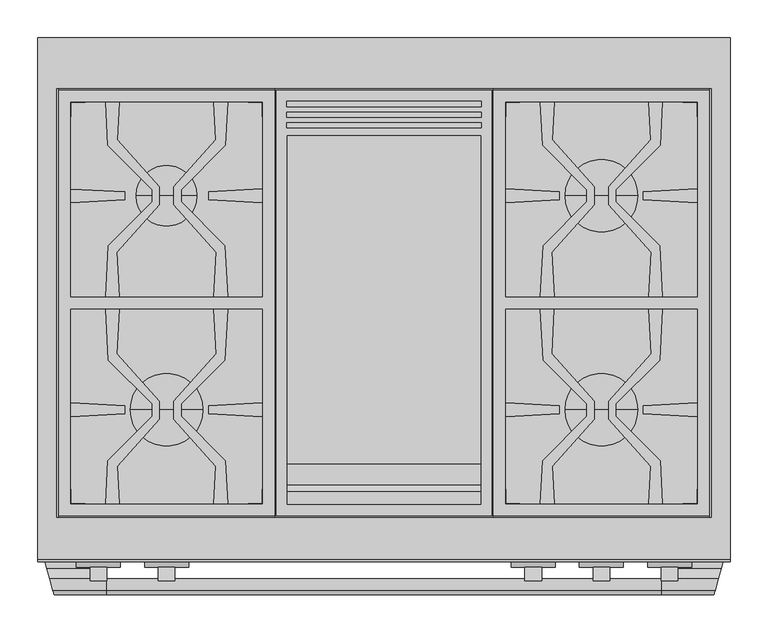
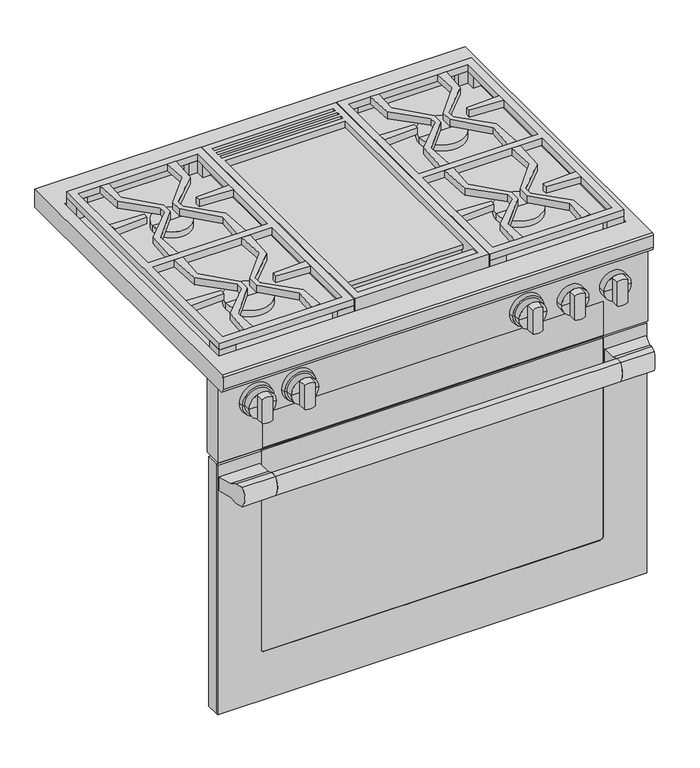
"""IFC4 building model written with IfcOpenShell, lengths in millimetres: proxy geometry, 10902410_USA_HR1936-2G_EDST-CLST : 25193671_USA_10902410_HR1936-2G_EDST-CLST."""

from ifc_helpers import new_model, si_unit, point, frame, frame_2d, origin, place, context, project, spatial, polyline, circle_curve, ellipse_curve, trimmed, segment, composite_curve, outline, extrude, faceted_brep, source, transform, mapped, element, save
from ifc_brep_helpers import plane_surface, cylinder_surface, revolved_surface, advanced_brep


def specialty_equipment_e9b42d80(model_context):
    return source(origin(), model_context, "Body", "SolidModel", [
        extrude(outline(composite_curve([segment(polyline([(-729.0, 667.0), (-714.0, 667.0), (-714.0, 624.0), (-729.0, 624.0)]), True, "CONTINUOUS"), segment(trimmed(circle_curve(frame_2d((-693.4791667, 645.5)), 41.5208333), [point((-729.0, 624.0))], [point((-729.0, 667.0))], False, "CARTESIAN"), True, "CONTINUOUS")], self_intersect=False)), frame((-366.0, 0.0, 0.0), z_axis=(1.0, 0.0, 0.0), x_axis=(0.0, 1.0, 0.0)), (0.0, 0.0, 1.0), 732.0),
        extrude(outline(polyline([(-456.0, -638.0), (456.0, -638.0), (456.0, -664.7), (-456.0, -664.7), (-456.0, -638.0)])), frame((0.0, 0.0, 127.0), z_axis=(0.0, 0.0, 1.0), x_axis=(1.0, 0.0, 0.0)), (0.0, 0.0, 1.0), 561.0),
        extrude(outline(polyline([(-455.0, -664.7), (455.0, -664.7), (455.0, -668.7), (-455.0, -668.7), (-455.0, -664.7)])), frame((0.0, 0.0, 128.0), z_axis=(0.0, 0.0, 1.0), x_axis=(1.0, 0.0, 0.0)), (0.0, 0.0, 1.0), 559.0),
        advanced_brep(
        [(363.0, -664.7, 688.0), (456.0, -664.7, 688.0), (456.0, -664.7, 127.0), (-456.0, -664.7, 127.0), (-456.0, -664.7, 688.0), (-363.0, -664.7, 688.0), (-363.0, -664.7, 687.0), (-455.0, -664.7, 687.0), (-455.0, -664.7, 128.0), (455.0, -664.7, 128.0), (455.0, -664.7, 687.0), (363.0, -664.7, 687.0), (-363.0, -670.0, 688.0), (-456.0, -670.0, 688.0), (-456.0, -670.0, 127.0), (456.0, -670.0, 127.0), (456.0, -670.0, 688.0), (363.0, -670.0, 688.0), (363.0, -670.0, 241.0), (357.0, -670.0, 235.0), (-357.0, -670.0, 235.0), (-363.0, -670.0, 241.0), (-363.0, -668.7, 241.0), (-363.0, -668.7, 687.0), (357.0, -668.7, 235.0), (-357.0, -668.7, 235.0), (363.0, -668.7, 687.0), (363.0, -668.7, 241.0), (455.0, -668.7, 687.0), (455.0, -668.7, 128.0), (-455.0, -668.7, 128.0), (-455.0, -668.7, 687.0)],
        [
            (0, 1),
            (1, 2),
            (2, 3),
            (3, 4),
            (4, 5),
            (5, 6),
            (6, 7),
            (7, 8),
            (8, 9),
            (9, 10),
            (10, 11),
            (11, 0),
            (12, 13),
            (13, 14),
            (14, 15),
            (15, 16),
            (16, 17),
            (17, 18),
            (18, 19, circle_curve(frame((357.0, -670.0, 241.0), z_axis=(0.0, 1.0, 0.0), x_axis=(-1.0, 0.0, 0.0)), 6.0)),
            (19, 20),
            (20, 21, circle_curve(frame((-357.0, -670.0, 241.0), z_axis=(0.0, 1.0, 0.0), x_axis=(-1.0, 0.0, 0.0)), 6.0)),
            (21, 12),
            (21, 22),
            (22, 23),
            (23, 6),
            (5, 12),
            (19, 24),
            (24, 25),
            (25, 20),
            (17, 0),
            (11, 26),
            (26, 27),
            (27, 18),
            (16, 1),
            (15, 2),
            (14, 3),
            (13, 4),
            (25, 22, circle_curve(frame((-357.0, -668.7, 241.0), z_axis=(0.0, 1.0, 0.0), x_axis=(-1.0, 0.0, 0.0)), 6.0)),
            (27, 24, circle_curve(frame((357.0, -668.7, 241.0), z_axis=(0.0, 1.0, 0.0), x_axis=(-1.0, 0.0, 0.0)), 6.0)),
            (28, 29),
            (29, 30),
            (30, 31),
            (31, 23),
            (26, 28),
            (28, 10),
            (9, 29),
            (8, 30),
            (7, 31),
        ],
        [
            plane_surface(frame((-363.0, -664.7, 241.0), z_axis=(0.0, 1.0, 0.0), x_axis=(0.0, 0.0, -1.0))),
            plane_surface(frame((-363.0, -670.0, 241.0), z_axis=(0.0, -1.0, 0.0), x_axis=(0.0, 0.0, 1.0))),
            plane_surface(frame((-363.0, -664.7, 688.0), z_axis=(1.0, 0.0, 0.0), x_axis=(0.0, -1.0, 0.0))),
            plane_surface(frame((-357.0, -664.7, 235.0), z_axis=(0.0, 0.0, 1.0), x_axis=(0.0, -1.0, 0.0))),
            plane_surface(frame((363.0, -664.7, 241.0), z_axis=(-1.0, 0.0, 0.0), x_axis=(0.0, -1.0, 0.0))),
            plane_surface(frame((363.0, -664.7, 688.0), z_axis=(0.0, 0.0, 1.0), x_axis=(0.0, -1.0, 0.0))),
            plane_surface(frame((456.0, -664.7, 688.0), z_axis=(1.0, 0.0, 0.0), x_axis=(0.0, -1.0, 0.0))),
            plane_surface(frame((456.0, -664.7, 127.0), z_axis=(0.0, 0.0, -1.0), x_axis=(0.0, -1.0, 0.0))),
            plane_surface(frame((-456.0, -664.7, 127.0), z_axis=(-1.0, 0.0, 0.0), x_axis=(0.0, -1.0, 0.0))),
            plane_surface(frame((-456.0, -664.7, 688.0), z_axis=(0.0, 0.0, 1.0), x_axis=(0.0, -1.0, 0.0))),
            revolved_surface(polyline([(-363.0, -670.0, 241.0), (-363.0, -668.7, 241.0)]), (-357.0, -670.0, 241.0), (0.0, -1.0, 0.0)),
            revolved_surface(polyline([(351.0, -670.0, 241.0), (351.0, -668.7, 241.0)]), (357.0, -670.0, 241.0), (0.0, -1.0, 0.0)),
            plane_surface(frame((455.0, -668.7, 687.0), z_axis=(0.0, 1.0, 0.0), x_axis=(0.0, 0.0, 1.0))),
            plane_surface(frame((455.0, -664.7, 687.0), z_axis=(-1.0, 0.0, 0.0), x_axis=(0.0, -1.0, 0.0))),
            plane_surface(frame((455.0, -664.7, 128.0), z_axis=(0.0, 0.0, 1.0), x_axis=(0.0, -1.0, 0.0))),
            plane_surface(frame((-455.0, -664.7, 128.0), z_axis=(1.0, 0.0, 0.0), x_axis=(0.0, -1.0, 0.0))),
            plane_surface(frame((-455.0, -664.7, 687.0), z_axis=(0.0, 0.0, -1.0), x_axis=(0.0, -1.0, 0.0))),
        ],
        [
            (0, [[1, 2, 3, 4, 5, 6, 7, 8, 9, 10, 11, 12]]),
            (1, [[13, 14, 15, 16, 17, 18, 19, 20, 21, 22]]),
            (2, [[-22, 23, 24, 25, -6, 26]]),
            (3, [[-20, 27, 28, 29]]),
            (4, [[-18, 30, -12, 31, 32, 33]]),
            (5, [[-1, -30, -17, 34]]),
            (6, [[-2, -34, -16, 35]]),
            (7, [[-3, -35, -15, 36]]),
            (8, [[-4, -36, -14, 37]]),
            (9, [[-5, -37, -13, -26]]),
            (10, [[-21, -29, 38, -23]]),
            (11, [[-19, -33, 39, -27]]),
            (12, [[40, 41, 42, 43, -24, -38, -28, -39, -32, 44]]),
            (13, [[-40, 45, -10, 46]]),
            (14, [[-41, -46, -9, 47]]),
            (15, [[-42, -47, -8, 48]]),
            (16, [[-45, -44, -31, -11]]),
            (16, [[-48, -7, -25, -43]]),
        ],
    ),
        extrude(outline(polyline([(-427.0, -617.0), (427.0, -617.0), (427.0, -638.0), (-427.0, -638.0), (-427.0, -617.0)])), frame((0.0, 0.0, 133.0), z_axis=(0.0, 0.0, 1.0), x_axis=(1.0, 0.0, 0.0)), (0.0, 0.0, 1.0), 550.0),
        advanced_brep(
        [(-366.0, -700.0, 630.0), (-366.0, -670.0, 630.0), (-366.0, -670.0, 661.0), (-366.0, -700.0, 661.0), (-366.0, -714.0, 667.0), (-366.0, -729.0, 667.0), (-366.0, -729.0, 624.0), (-366.0, -714.0, 624.0), (-444.9615242, -700.0, 630.0), (-453.0, -670.0, 630.0), (-453.0, -670.0, 661.0), (-444.9615242, -700.0, 661.0), (-441.2102355, -714.0, 667.0), (-437.1909976, -729.0, 667.0), (-437.1909976, -729.0, 624.0), (-441.2102355, -714.0, 624.0)],
        [
            (0, 1),
            (1, 2),
            (2, 3),
            (3, 4),
            (4, 5),
            (5, 6, circle_curve(frame((-366.0, -693.4791667, 645.5), z_axis=(1.0, 0.0, 0.0), x_axis=(0.0, 0.0, 1.0)), 41.5208333)),
            (6, 7),
            (7, 0),
            (0, 8),
            (8, 9),
            (9, 1),
            (9, 10),
            (10, 2),
            (10, 11),
            (11, 3),
            (4, 12),
            (12, 13),
            (13, 5),
            (13, 14, ellipse_curve(frame((-446.7087763, -693.4791667, 645.5), z_axis=(0.9659258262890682, 0.25881904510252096, 0.0), x_axis=(0.2588190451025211, -0.9659258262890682, 0.0)), 42.9855297, 41.5208333)),
            (14, 6),
            (14, 15),
            (15, 7),
            (8, 15),
            (12, 11),
        ],
        [
            plane_surface(frame((-366.0, -670.0, 630.0), z_axis=(1.0, 0.0, 0.0), x_axis=(0.0, 1.0, 0.0))),
            plane_surface(frame((-366.0, -700.0, 630.0), z_axis=(0.0, 0.0, -1.0), x_axis=(-1.0, 0.0, 0.0))),
            plane_surface(frame((-366.0, -670.0, 630.0), z_axis=(0.0, 1.0, 0.0), x_axis=(-1.0, 0.0, 0.0))),
            plane_surface(frame((-366.0, -670.0, 661.0), z_axis=(0.0, 0.0, 1.0), x_axis=(-1.0, 0.0, 0.0))),
            plane_surface(frame((-366.0, -714.0, 667.0), z_axis=(0.0, 0.0, 1.0), x_axis=(-1.0, 0.0, 0.0))),
            cylinder_surface(frame((-453.0, -693.4791667, 645.5), z_axis=(1.0, 0.0, 0.0), x_axis=(0.0, 0.0, 1.0)), 41.5208333),
            plane_surface(frame((-366.0, -729.0, 624.0), z_axis=(0.0, 0.0, -1.0), x_axis=(-1.0, 0.0, 0.0))),
            plane_surface(frame((-430.5578883, -753.7551012, 668.5), z_axis=(-0.9659258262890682, -0.25881904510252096, 0.0), x_axis=(0.0, 0.0, -1.0))),
            plane_surface(frame((-366.0, -700.0, 661.0), z_axis=(0.0, 0.39391929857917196, 0.919145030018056), x_axis=(-1.0, 0.0, 0.0))),
            plane_surface(frame((-366.0, -714.0, 624.0), z_axis=(0.0, 0.39391929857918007, -0.9191450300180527), x_axis=(-1.0, 0.0, 0.0))),
        ],
        [
            (0, [[1, 2, 3, 4, 5, 6, 7, 8]]),
            (1, [[-1, 9, 10, 11]]),
            (2, [[-2, -11, 12, 13]]),
            (3, [[-3, -13, 14, 15]]),
            (4, [[-5, 16, 17, 18]]),
            (5, [[-6, -18, 19, 20]]),
            (6, [[-7, -20, 21, 22]]),
            (7, [[-10, 23, -21, -19, -17, 24, -14, -12]]),
            (8, [[-4, -15, -24, -16]]),
            (9, [[-8, -22, -23, -9]]),
        ],
    ),
        advanced_brep(
        [(366.0, -700.0, 661.0), (366.0, -670.0, 661.0), (366.0, -670.0, 630.0), (366.0, -700.0, 630.0), (366.0, -714.0, 624.0), (366.0, -729.0, 624.0), (366.0, -729.0, 667.0), (366.0, -714.0, 667.0), (437.1909976, -729.0, 667.0), (441.2102355, -714.0, 667.0), (437.1909976, -729.0, 624.0), (441.2102355, -714.0, 624.0), (453.0, -670.0, 630.0), (444.9615242, -700.0, 630.0), (453.0, -670.0, 661.0), (444.9615242, -700.0, 661.0)],
        [
            (0, 1),
            (1, 2),
            (2, 3),
            (3, 4),
            (4, 5),
            (5, 6, circle_curve(frame((366.0, -693.4791667, 645.5), z_axis=(-1.0, 0.0, 0.0), x_axis=(0.0, 0.0, 1.0)), 41.5208333)),
            (6, 7),
            (7, 0),
            (6, 8),
            (8, 9),
            (9, 7),
            (5, 10),
            (10, 8, ellipse_curve(frame((446.7087763, -693.4791667, 645.5), z_axis=(-0.9659258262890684, 0.2588190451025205, 0.0), x_axis=(0.25881904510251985, 0.9659258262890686, 0.0)), 42.9855297, 41.5208333)),
            (4, 11),
            (11, 10),
            (2, 12),
            (12, 13),
            (13, 3),
            (1, 14),
            (14, 12),
            (0, 15),
            (15, 14),
            (11, 13),
            (15, 9),
        ],
        [
            plane_surface(frame((366.0, -714.0, 667.0), z_axis=(-1.0000000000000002, 0.0, 0.0), x_axis=(0.0, 0.9191450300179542, -0.3939192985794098))),
            plane_surface(frame((453.0, -714.0, 667.0), z_axis=(0.0, 0.0, 1.0), x_axis=(-1.0, 0.0, 0.0))),
            cylinder_surface(frame((366.0, -693.4791667, 645.5), z_axis=(1.0, 0.0, 0.0), x_axis=(0.0, 0.0, 1.0)), 41.5208333),
            plane_surface(frame((453.0, -729.0, 624.0), z_axis=(0.0, 0.0, -1.0), x_axis=(-1.0, 0.0, 0.0))),
            plane_surface(frame((453.0, -700.0, 630.0), z_axis=(0.0, 0.0, -1.0), x_axis=(-1.0, 0.0, 0.0))),
            plane_surface(frame((453.0, -670.0, 630.0), z_axis=(0.0, 1.0, 0.0), x_axis=(-1.0, 0.0, 0.0))),
            plane_surface(frame((453.0, -670.0, 661.0), z_axis=(0.0, 0.0, 1.0), x_axis=(-1.0, 0.0, 0.0))),
            plane_surface(frame((453.0, -670.0, 668.5), z_axis=(0.9659258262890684, -0.2588190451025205, 0.0), x_axis=(0.0, 0.0, -1.0))),
            plane_surface(frame((453.0, -700.0, 661.0), z_axis=(0.0, 0.3939192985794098, 0.9191450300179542), x_axis=(-1.0, 0.0, 0.0))),
            plane_surface(frame((453.0, -714.0, 624.0), z_axis=(0.0, 0.3939192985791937, -0.9191450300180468), x_axis=(-1.0, 0.0, 0.0))),
        ],
        [
            (0, [[1, 2, 3, 4, 5, 6, 7, 8]]),
            (1, [[-7, 9, 10, 11]]),
            (2, [[-6, 12, 13, -9]]),
            (3, [[-5, 14, 15, -12]]),
            (4, [[-3, 16, 17, 18]]),
            (5, [[-2, 19, 20, -16]]),
            (6, [[-1, 21, 22, -19]]),
            (7, [[-10, -13, -15, 23, -17, -20, -22, 24]]),
            (8, [[-8, -11, -24, -21]]),
            (9, [[-4, -18, -23, -14]]),
        ],
    ),
        extrude(outline(polyline([(206.4177304, -358.0273828), (224.4174107, -358.0273828), (221.3474419, -416.9894265), (277.4590566, -479.568392), (277.4590566, -503.4471434), (221.8930533, -565.5024535), (224.5051055, -615.0212482), (206.5054252, -615.0212482), (209.4706458, -558.0710081), (267.8494553, -499.6921986), (267.8494553, -483.3657133), (209.9764383, -425.4926963), (206.4177304, -358.0273828)])), frame((0.0, 0.0, 914.0), z_axis=(0.0, 0.0, 1.0), x_axis=(1.0, 0.0, 0.0)), (0.0, 0.0, 1.0), 15.0),
        extrude(outline(polyline([(352.5666917, -416.9448139), (349.4588735, -358.0273828), (367.4534566, -358.0273828), (363.9434746, -425.4403498), (306.0712231, -483.3126013), (306.0712231, -499.6295194), (364.5438392, -558.1021355), (367.5462487, -615.0212482), (349.541471, -615.0212482), (352.1220648, -565.4581775), (296.4590702, -503.3795395), (296.4590702, -479.6049953), (352.5666917, -416.9448139)])), frame((0.0, 0.0, 914.0), z_axis=(0.0, 0.0, 1.0), x_axis=(1.0, 0.0, 0.0)), (0.0, 0.0, 1.0), 15.0),
        extrude(outline(polyline([(-367.5822696, -358.0273828), (-349.5825893, -358.0273828), (-352.6525581, -416.9894265), (-296.5409434, -479.568392), (-296.5409434, -503.4471434), (-352.1069467, -565.5024535), (-349.4948945, -615.0212482), (-367.4945748, -615.0212482), (-364.5293542, -558.0710081), (-306.1505447, -499.6921986), (-306.1505447, -483.3657133), (-364.0235617, -425.4926963), (-367.5822696, -358.0273828)])), frame((0.0, 0.0, 914.0), z_axis=(0.0, 0.0, 1.0), x_axis=(1.0, 0.0, 0.0)), (0.0, 0.0, 1.0), 15.0),
        extrude(outline(polyline([(-224.5411265, -358.0273828), (-206.5465434, -358.0273828), (-210.0565254, -425.4403498), (-267.9287769, -483.3126013), (-267.9287769, -499.6295194), (-209.4561608, -558.1021355), (-206.4537513, -615.0212482), (-224.458529, -615.0212482), (-221.8779352, -565.4581775), (-277.5409298, -503.3795395), (-277.5409298, -479.6049953), (-221.4333083, -416.9448139), (-224.5411265, -358.0273828)])), frame((0.0, 0.0, 914.0), z_axis=(0.0, 0.0, 1.0), x_axis=(1.0, 0.0, 0.0)), (0.0, 0.0, 1.0), 15.0),
        extrude(outline(polyline([(206.4614138, -85.0), (224.4614138, -85.0), (221.8661974, -134.5196799), (277.5, -196.6082182), (277.5, -220.3917818), (221.3710782, -283.0328838), (224.4614138, -342.0), (206.4614138, -342.0), (209.9971843, -274.5334805), (267.8891082, -216.6415566), (267.8891082, -200.3584434), (209.4441217, -141.9134569), (206.4614138, -85.0)])), frame((0.0, 0.0, 914.0), z_axis=(0.0, 0.0, 1.0), x_axis=(1.0, 0.0, 0.0)), (0.0, 0.0, 1.0), 15.0),
        extrude(outline(polyline([(349.5, -85.0), (367.5, -85.0), (364.5172921, -141.9134569), (306.1108918, -200.3198573), (306.1108918, -216.6801428), (363.9642295, -274.5334805), (367.5, -342.0), (349.5, -342.0), (352.5903356, -283.0328839), (296.5, -220.4348449), (296.5, -196.5651551), (352.0952165, -134.5196799), (349.5, -85.0)])), frame((0.0, 0.0, 914.0), z_axis=(0.0, 0.0, 1.0), x_axis=(1.0, 0.0, 0.0)), (0.0, 0.0, 1.0), 15.0),
        extrude(outline(polyline([(-367.5385862, -85.0), (-349.5385862, -85.0), (-352.1338026, -134.5196799), (-296.5, -196.6082182), (-296.5, -220.3917818), (-352.6289218, -283.0328838), (-349.5385862, -342.0), (-367.5385862, -342.0), (-364.0028157, -274.5334805), (-306.1108918, -216.6415566), (-306.1108918, -200.3584434), (-364.5558783, -141.9134569), (-367.5385862, -85.0)])), frame((0.0, 0.0, 914.0), z_axis=(0.0, 0.0, 1.0), x_axis=(1.0, 0.0, 0.0)), (0.0, 0.0, 1.0), 15.0),
        extrude(outline(polyline([(-224.5, -85.0), (-206.5, -85.0), (-209.4827079, -141.9134569), (-267.8891082, -200.3198573), (-267.8891082, -216.6801428), (-210.0357705, -274.5334805), (-206.5, -342.0), (-224.5, -342.0), (-221.4096644, -283.0328839), (-277.5, -220.4348449), (-277.5, -196.5651551), (-221.9047835, -134.5196799), (-224.5, -85.0)])), frame((0.0, 0.0, 914.0), z_axis=(0.0, 0.0, 1.0), x_axis=(1.0, 0.0, 0.0)), (0.0, 0.0, 1.0), 15.0),
        extrude(outline(polyline([(429.5, -67.0), (429.5, -633.0), (144.5, -633.0), (144.5, -67.0), (429.5, -67.0)])), frame((0.0, 0.0, 870.0), z_axis=(0.0, 0.0, 1.0), x_axis=(1.0, 0.0, 0.0)), (0.0, 0.0, 1.0), 17.0),
        extrude(outline(polyline([(-144.5, -67.0), (-144.5, -633.0), (-429.5, -633.0), (-429.5, -67.0), (-144.5, -67.0)])), frame((0.0, 0.0, 870.0), z_axis=(0.0, 0.0, 1.0), x_axis=(1.0, 0.0, 0.0)), (0.0, 0.0, 1.0), 17.0),
        extrude(outline(polyline([(-342.5, -213.7921261), (-413.5, -217.4578849), (-413.5, -199.5421151), (-342.5, -203.2078739), (-342.5, -213.7921261)])), frame((0.0, 0.0, 914.0), z_axis=(0.0, 0.0, 1.0), x_axis=(1.0, 0.0, 0.0)), (0.0, 0.0, 1.0), 15.0),
        extrude(outline(polyline([(-160.5, -199.5029948), (-160.5, -217.4970052), (-231.5, -213.7790477), (-231.5, -203.2209523), (-160.5, -199.5029948)])), frame((0.0, 0.0, 914.0), z_axis=(0.0, 0.0, 1.0), x_axis=(1.0, 0.0, 0.0)), (0.0, 0.0, 1.0), 15.0),
        extrude(outline(polyline([(-342.5, -496.2921261), (-413.5, -499.9578849), (-413.5, -482.0421151), (-342.5, -485.7078739), (-342.5, -496.2921261)])), frame((0.0, 0.0, 914.0), z_axis=(0.0, 0.0, 1.0), x_axis=(1.0, 0.0, 0.0)), (0.0, 0.0, 1.0), 15.0),
        extrude(outline(polyline([(-160.5, -482.0029948), (-160.5, -499.9970052), (-231.5, -496.2790477), (-231.5, -485.7209523), (-160.5, -482.0029948)])), frame((0.0, 0.0, 914.0), z_axis=(0.0, 0.0, 1.0), x_axis=(1.0, 0.0, 0.0)), (0.0, 0.0, 1.0), 15.0),
        extrude(outline(polyline([(-144.5, -631.0), (-179.5, -631.0), (-179.5, -615.0), (-160.5, -615.0), (-160.5, -596.0), (-144.5, -596.0), (-144.5, -631.0)])), frame((0.0, 0.0, 887.0), z_axis=(0.0, 0.0, 1.0), x_axis=(1.0, 0.0, 0.0)), (0.0, 0.0, 1.0), 27.0),
        extrude(outline(polyline([(-429.5, -631.0), (-429.5, -596.0), (-413.5, -596.0), (-413.5, -615.0), (-394.5, -615.0), (-394.5, -631.0), (-429.5, -631.0)])), frame((0.0, 0.0, 887.0), z_axis=(0.0, 0.0, 1.0), x_axis=(1.0, 0.0, 0.0)), (0.0, 0.0, 1.0), 27.0),
        extrude(outline(polyline([(-144.5, -69.0), (-144.5, -104.0), (-160.5, -104.0), (-160.5, -85.0), (-179.5, -85.0), (-179.5, -69.0), (-144.5, -69.0)])), frame((0.0, 0.0, 887.0), z_axis=(0.0, 0.0, 1.0), x_axis=(1.0, 0.0, 0.0)), (0.0, 0.0, 1.0), 27.0),
        extrude(outline(polyline([(-429.5, -69.0), (-394.5, -69.0), (-394.5, -85.0), (-413.5, -85.0), (-413.5, -104.0), (-429.5, -104.0), (-429.5, -69.0)])), frame((0.0, 0.0, 887.0), z_axis=(0.0, 0.0, 1.0), x_axis=(1.0, 0.0, 0.0)), (0.0, 0.0, 1.0), 27.0),
        extrude(outline(polyline([(160.5, -499.9810574), (160.5, -482.0189426), (231.5, -485.7078739), (231.5, -496.2921261), (160.5, -499.9810574)])), frame((0.0, 0.0, 914.0), z_axis=(0.0, 0.0, 1.0), x_axis=(1.0, 0.0, 0.0)), (0.0, 0.0, 1.0), 15.0),
        extrude(outline(polyline([(413.5, -482.0262039), (413.5, -499.9737961), (342.5, -496.2790477), (342.5, -485.7209523), (413.5, -482.0262039)])), frame((0.0, 0.0, 914.0), z_axis=(0.0, 0.0, 1.0), x_axis=(1.0, 0.0, 0.0)), (0.0, 0.0, 1.0), 15.0),
        extrude(outline(polyline([(160.5, -217.4810574), (160.5, -199.5189426), (231.5, -203.2078739), (231.5, -213.7921261), (160.5, -217.4810574)])), frame((0.0, 0.0, 914.0), z_axis=(0.0, 0.0, 1.0), x_axis=(1.0, 0.0, 0.0)), (0.0, 0.0, 1.0), 15.0),
        extrude(outline(polyline([(413.5, -199.5262039), (413.5, -217.4737961), (342.5, -213.7790477), (342.5, -203.2209523), (413.5, -199.5262039)])), frame((0.0, 0.0, 914.0), z_axis=(0.0, 0.0, 1.0), x_axis=(1.0, 0.0, 0.0)), (0.0, 0.0, 1.0), 15.0),
        advanced_brep(
        [(239.0, -208.5, 887.0), (335.0, -208.5, 887.0), (335.0, -208.5, 901.0), (239.0, -208.5, 901.0), (287.0, -208.5, 887.0), (287.0, -208.5, 901.0)],
        [
            (0, 1, circle_curve(frame((287.0, -208.5, 887.0), z_axis=(0.0, 0.0, 1.0), x_axis=(1.0, 0.0, 0.0)), 48.0)),
            (1, 2),
            (2, 3, circle_curve(frame((287.0, -208.5, 901.0), z_axis=(0.0, 0.0, -1.0), x_axis=(1.0, 0.0, 0.0)), 48.0)),
            (3, 0),
            (1, 0, circle_curve(frame((287.0, -208.5, 887.0), z_axis=(0.0, 0.0, 1.0), x_axis=(1.0, 0.0, 0.0)), 48.0)),
            (3, 2, circle_curve(frame((287.0, -208.5, 901.0), z_axis=(0.0, 0.0, -1.0), x_axis=(1.0, 0.0, 0.0)), 48.0)),
            (4, 1),
            (0, 4),
            (2, 5),
            (5, 3),
        ],
        [
            cylinder_surface(frame((287.0, -208.5, 2424.4), z_axis=(0.0, 0.0, -1.0), x_axis=(1.0, 0.0, 0.0)), 48.0),
            plane_surface(frame((287.0, -208.5, 887.0), z_axis=(0.0, 0.0, -1.0), x_axis=(1.0, 0.0, 0.0))),
            plane_surface(frame((287.0, -208.5, 901.0), z_axis=(0.0, 0.0, 1.0), x_axis=(1.0, 0.0, 0.0))),
        ],
        [
            (0, [[1, 2, 3, 4]]),
            (0, [[5, -4, 6, -2]]),
            (1, [[7, -1, 8]]),
            (1, [[-8, -5, -7]]),
            (2, [[-3, 9, 10]]),
            (2, [[-6, -10, -9]]),
        ],
    ),
        extrude(outline(polyline([(-144.5, -69.0), (-144.5, -631.0), (-429.5, -631.0), (-429.5, -69.0), (-144.5, -69.0)]), holes=[polyline([(-160.5, -85.0), (-413.5, -85.0), (-413.5, -342.0), (-160.5, -342.0), (-160.5, -85.0)]), polyline([(-413.5, -358.0), (-413.5, -615.0), (-160.5, -615.0), (-160.5, -358.0), (-413.5, -358.0)])]), frame((0.0, 0.0, 914.0), z_axis=(0.0, 0.0, 1.0), x_axis=(1.0, 0.0, 0.0)), (0.0, 0.0, 1.0), 15.0),
        extrude(outline(polyline([(429.5, -69.0), (429.5, -631.0), (144.5, -631.0), (144.5, -69.0), (429.5, -69.0)]), holes=[polyline([(413.5, -85.0), (160.5, -85.0), (160.5, -342.0), (413.5, -342.0), (413.5, -85.0)]), polyline([(160.5, -358.0), (160.5, -615.0), (413.5, -615.0), (413.5, -358.0), (160.5, -358.0)])]), frame((0.0, 0.0, 914.0), z_axis=(0.0, 0.0, 1.0), x_axis=(1.0, 0.0, 0.0)), (0.0, 0.0, 1.0), 15.0),
        advanced_brep(
        [(239.0, -491.0, 887.0), (335.0, -491.0, 887.0), (335.0, -491.0, 901.0), (239.0, -491.0, 901.0), (287.0, -491.0, 887.0), (287.0, -491.0, 901.0)],
        [
            (0, 1, circle_curve(frame((287.0, -491.0, 887.0), z_axis=(0.0, 0.0, 1.0), x_axis=(1.0, 0.0, 0.0)), 48.0)),
            (1, 2),
            (2, 3, circle_curve(frame((287.0, -491.0, 901.0), z_axis=(0.0, 0.0, -1.0), x_axis=(1.0, 0.0, 0.0)), 48.0)),
            (3, 0),
            (1, 0, circle_curve(frame((287.0, -491.0, 887.0), z_axis=(0.0, 0.0, 1.0), x_axis=(1.0, 0.0, 0.0)), 48.0)),
            (3, 2, circle_curve(frame((287.0, -491.0, 901.0), z_axis=(0.0, 0.0, -1.0), x_axis=(1.0, 0.0, 0.0)), 48.0)),
            (4, 1),
            (0, 4),
            (2, 5),
            (5, 3),
        ],
        [
            cylinder_surface(frame((287.0, -491.0, 2424.4), z_axis=(0.0, 0.0, -1.0), x_axis=(1.0, 0.0, 0.0)), 48.0),
            plane_surface(frame((287.0, -491.0, 887.0), z_axis=(0.0, 0.0, -1.0), x_axis=(1.0, 0.0, 0.0))),
            plane_surface(frame((287.0, -491.0, 901.0), z_axis=(0.0, 0.0, 1.0), x_axis=(1.0, 0.0, 0.0))),
        ],
        [
            (0, [[1, 2, 3, 4]]),
            (0, [[5, -4, 6, -2]]),
            (1, [[7, -1, 8]]),
            (1, [[-8, -5, -7]]),
            (2, [[-3, 9, 10]]),
            (2, [[-6, -10, -9]]),
        ],
    ),
        extrude(outline(polyline([(429.5, -631.0), (394.5, -631.0), (394.5, -615.0), (413.5, -615.0), (413.5, -596.0), (429.5, -596.0), (429.5, -631.0)])), frame((0.0, 0.0, 887.0), z_axis=(0.0, 0.0, 1.0), x_axis=(1.0, 0.0, 0.0)), (0.0, 0.0, 1.0), 27.0),
        extrude(outline(polyline([(144.5, -631.0), (144.5, -596.0), (160.5125078, -596.0), (160.5125078, -615.0), (179.5, -615.0), (179.5, -631.0), (144.5, -631.0)])), frame((0.0, 0.0, 887.0), z_axis=(0.0, 0.0, 1.0), x_axis=(1.0, 0.0, 0.0)), (0.0, 0.0, 1.0), 27.0),
        extrude(outline(polyline([(429.5, -69.0), (429.5, -104.0), (413.4874922, -104.0), (413.4874922, -85.0), (394.5, -85.0), (394.5, -69.0), (429.5, -69.0)])), frame((0.0, 0.0, 887.0), z_axis=(0.0, 0.0, 1.0), x_axis=(1.0, 0.0, 0.0)), (0.0, 0.0, 1.0), 27.0),
        extrude(outline(polyline([(144.5, -69.0), (179.5, -69.0), (179.5, -85.0), (160.5125078, -85.0), (160.5125078, -104.0), (144.5, -104.0), (144.5, -69.0)])), frame((0.0, 0.0, 887.0), z_axis=(0.0, 0.0, 1.0), x_axis=(1.0, 0.0, 0.0)), (0.0, 0.0, 1.0), 27.0),
        advanced_brep(
        [(-287.0, -208.5, 887.0), (-247.0, -208.5, 887.0), (-327.0, -208.5, 887.0), (-327.0, -208.5, 901.0), (-247.0, -208.5, 901.0), (-287.0, -208.5, 901.0)],
        [
            (0, 1),
            (1, 2, circle_curve(frame((-287.0, -208.5, 887.0), z_axis=(0.0, 0.0, -1.0), x_axis=(1.0, 0.0, 0.0)), 40.0)),
            (2, 0),
            (2, 1, circle_curve(frame((-287.0, -208.5, 887.0), z_axis=(0.0, 0.0, -1.0), x_axis=(1.0, 0.0, 0.0)), 40.0)),
            (3, 4, circle_curve(frame((-287.0, -208.5, 901.0), z_axis=(0.0, 0.0, 1.0), x_axis=(1.0, 0.0, 0.0)), 40.0)),
            (4, 5),
            (5, 3),
            (4, 3, circle_curve(frame((-287.0, -208.5, 901.0), z_axis=(0.0, 0.0, 1.0), x_axis=(1.0, 0.0, 0.0)), 40.0)),
            (1, 4),
            (3, 2),
        ],
        [
            plane_surface(frame((-287.0, -208.5, 887.0), z_axis=(0.0, 0.0, -1.0), x_axis=(1.0, 0.0, 0.0))),
            plane_surface(frame((-287.0, -208.5, 901.0), z_axis=(0.0, 0.0, 1.0), x_axis=(1.0, 0.0, 0.0))),
            cylinder_surface(frame((-287.0, -208.5, 2424.4), z_axis=(0.0, 0.0, -1.0), x_axis=(1.0, 0.0, 0.0)), 40.0),
        ],
        [
            (0, [[1, 2, 3]]),
            (0, [[-3, 4, -1]]),
            (1, [[5, 6, 7]]),
            (1, [[8, -7, -6]]),
            (2, [[-2, 9, -5, 10]]),
            (2, [[-4, -10, -8, -9]]),
        ],
    ),
        advanced_brep(
        [(-335.0, -491.0, 887.0), (-239.0, -491.0, 887.0), (-239.0, -491.0, 901.0), (-335.0, -491.0, 901.0), (-287.0, -491.0, 887.0), (-287.0, -491.0, 901.0)],
        [
            (0, 1, circle_curve(frame((-287.0, -491.0, 887.0), z_axis=(0.0, 0.0, 1.0), x_axis=(1.0, 0.0, 0.0)), 48.0)),
            (1, 2),
            (2, 3, circle_curve(frame((-287.0, -491.0, 901.0), z_axis=(0.0, 0.0, -1.0), x_axis=(1.0, 0.0, 0.0)), 48.0)),
            (3, 0),
            (1, 0, circle_curve(frame((-287.0, -491.0, 887.0), z_axis=(0.0, 0.0, 1.0), x_axis=(1.0, 0.0, 0.0)), 48.0)),
            (3, 2, circle_curve(frame((-287.0, -491.0, 901.0), z_axis=(0.0, 0.0, -1.0), x_axis=(1.0, 0.0, 0.0)), 48.0)),
            (4, 1),
            (0, 4),
            (2, 5),
            (5, 3),
        ],
        [
            cylinder_surface(frame((-287.0, -491.0, 2424.4), z_axis=(0.0, 0.0, -1.0), x_axis=(1.0, 0.0, 0.0)), 48.0),
            plane_surface(frame((-287.0, -491.0, 887.0), z_axis=(0.0, 0.0, -1.0), x_axis=(1.0, 0.0, 0.0))),
            plane_surface(frame((-287.0, -491.0, 901.0), z_axis=(0.0, 0.0, 1.0), x_axis=(1.0, 0.0, 0.0))),
        ],
        [
            (0, [[1, 2, 3, 4]]),
            (0, [[5, -4, 6, -2]]),
            (1, [[7, -1, 8]]),
            (1, [[-8, -5, -7]]),
            (2, [[-3, 9, 10]]),
            (2, [[-6, -10, -9]]),
        ],
    ),
        advanced_brep(
        [(457.0, 0.0, 902.0), (457.0, -688.3499547, 902.0), (457.0, -692.0, 898.3499547), (457.0, -692.0, 872.0), (457.0, -682.0, 862.0), (457.0, 0.0, 862.0), (-457.0, 0.0, 902.0), (-457.0, 0.0, 862.0), (-457.0, -682.0, 862.0), (-457.0, -692.0, 872.0), (-457.0, -692.0, 898.3499547), (-457.0, -688.3499547, 902.0), (-432.0, -67.0, 902.0), (432.0, -67.0, 902.0), (432.0, -633.0, 902.0), (-432.0, -633.0, 902.0), (432.0, -67.0, 870.0), (-432.0, -67.0, 870.0), (-432.0, -633.0, 870.0), (432.0, -633.0, 870.0)],
        [
            (0, 1),
            (1, 2, circle_curve(frame((457.0, -688.0, 898.0), z_axis=(1.0, 0.0, 0.0), x_axis=(0.0, 0.0, 1.0)), 4.0152794)),
            (2, 3),
            (3, 4, circle_curve(frame((457.0, -682.0, 872.0), z_axis=(1.0, 0.0, 0.0), x_axis=(0.0, 0.0, 1.0)), 10.0)),
            (4, 5),
            (5, 0),
            (6, 7),
            (7, 8),
            (8, 9, circle_curve(frame((-457.0, -682.0, 872.0), z_axis=(-1.0, 0.0, 0.0), x_axis=(0.0, 0.0, 1.0)), 10.0)),
            (9, 10),
            (10, 11, circle_curve(frame((-457.0, -688.0, 898.0), z_axis=(-1.0, 0.0, 0.0), x_axis=(0.0, 0.0, 1.0)), 4.0152794)),
            (11, 6),
            (0, 6),
            (11, 1),
            (12, 13),
            (13, 14),
            (14, 15),
            (15, 12),
            (10, 2),
            (9, 3),
            (8, 4),
            (7, 5),
            (16, 17),
            (17, 18),
            (18, 19),
            (19, 16),
            (16, 13),
            (12, 17),
            (15, 18),
            (14, 19),
        ],
        [
            plane_surface(frame((457.0, -688.3499547, 902.0), z_axis=(1.0, 0.0, 0.0), x_axis=(0.0, -1.0, 0.0))),
            plane_surface(frame((-457.0, -688.3499547, 902.0), z_axis=(-1.0, 0.0, 0.0), x_axis=(0.0, 1.0, 0.0))),
            plane_surface(frame((457.0, 0.0, 902.0), z_axis=(0.0, 0.0, 1.0), x_axis=(-1.0, 0.0, 0.0))),
            cylinder_surface(frame((-457.0, -688.0, 898.0), z_axis=(1.0, 0.0, 0.0), x_axis=(0.0, 0.0, 1.0)), 4.0152794),
            plane_surface(frame((457.0, -692.0, 898.3499547), z_axis=(0.0, -1.0, 0.0), x_axis=(-1.0, 0.0, 0.0))),
            cylinder_surface(frame((-457.0, -682.0, 872.0), z_axis=(1.0, 0.0, 0.0), x_axis=(0.0, 0.0, 1.0)), 10.0),
            plane_surface(frame((457.0, -682.0, 862.0), z_axis=(0.0, 0.0, -1.0), x_axis=(-1.0, 0.0, 0.0))),
            plane_surface(frame((457.0, 0.0, 862.0), z_axis=(0.0, 1.0, 0.0), x_axis=(-1.0, 0.0, 0.0))),
            plane_surface(frame((-432.0, -67.0, 870.0), z_axis=(0.0, 0.0, 1.0), x_axis=(1.0, 0.0, 0.0))),
            plane_surface(frame((432.0, -67.0, 902.0), z_axis=(0.0, -1.0, 0.0), x_axis=(0.0, 0.0, -1.0))),
            plane_surface(frame((-432.0, -67.0, 902.0), z_axis=(1.0, 0.0, 0.0), x_axis=(0.0, 0.0, -1.0))),
            plane_surface(frame((-432.0, -633.0, 902.0), z_axis=(0.0, 1.0, 0.0), x_axis=(0.0, 0.0, -1.0))),
            plane_surface(frame((432.0, -633.0, 902.0), z_axis=(-1.0, 0.0, 0.0), x_axis=(0.0, 0.0, -1.0))),
        ],
        [
            (0, [[1, 2, 3, 4, 5, 6]]),
            (1, [[7, 8, 9, 10, 11, 12]]),
            (2, [[-1, 13, -12, 14], [15, 16, 17, 18]]),
            (3, [[-2, -14, -11, 19]]),
            (4, [[-3, -19, -10, 20]]),
            (5, [[-4, -20, -9, 21]]),
            (6, [[-5, -21, -8, 22]]),
            (7, [[-6, -22, -7, -13]]),
            (8, [[23, 24, 25, 26]]),
            (9, [[-23, 27, -15, 28]]),
            (10, [[-24, -28, -18, 29]]),
            (11, [[-25, -29, -17, 30]]),
            (12, [[-26, -30, -16, -27]]),
        ],
    ),
        extrude(outline(polyline([(-599.0, 926.0), (-599.0, 916.0), (-602.0, 916.0), (-590.3423085, 891.0), (-558.0, 891.0), (-558.0, 904.0), (-562.0, 904.0), (-562.0, 914.0), (-129.0, 914.0), (-129.0, 904.0), (-557.0, 904.0), (-557.0, 890.0), (-590.9793788, 890.0), (-603.1033779, 916.0), (-616.0, 916.0), (-616.0, 926.0), (-599.0, 926.0)])), frame((-127.5, 0.0, 0.0), z_axis=(1.0, 0.0, 0.0), x_axis=(0.0, 1.0, 0.0)), (0.0, 0.0, 1.0), 255.0),
        extrude(outline(polyline([(142.5, -69.0), (142.5, -631.0), (-142.5, -631.0), (-142.5, -69.0), (142.5, -69.0)]), holes=[polyline([(127.5, -129.0), (-127.5, -129.0), (-127.5, -616.0), (127.5, -616.0), (127.5, -129.0)]), polyline([(-128.5, -84.0), (-128.5, -91.0), (128.5, -91.0), (128.5, -84.0), (-128.5, -84.0)]), polyline([(-128.5, -98.0), (-128.5, -105.0), (128.5, -105.0), (128.5, -98.0), (-128.5, -98.0)]), polyline([(-128.5, -112.0), (-128.5, -119.0), (128.5, -119.0), (128.5, -112.0), (-128.5, -112.0)])]), frame((0.0, 0.0, 891.0), z_axis=(0.0, 0.0, 1.0), x_axis=(1.0, 0.0, 0.0)), (0.0, 0.0, 1.0), 38.0),
        extrude(outline(composite_curve([segment(polyline([(839.8328157, -388.0), (786.1671843, -388.0)]), True, "CONTINUOUS"), segment(trimmed(circle_curve(frame_2d((813.0, -377.0)), 29.0), [point((786.1671843, -388.0))], [point((786.1671843, -366.0))], False, "CARTESIAN"), True, "CONTINUOUS"), segment(polyline([(786.1671843, -366.0), (839.8328157, -366.0)]), True, "CONTINUOUS"), segment(trimmed(circle_curve(frame_2d((813.0, -377.0)), 29.0), [point((839.8328157, -366.0))], [point((839.8328157, -388.0))], False, "CARTESIAN"), True, "CONTINUOUS")], self_intersect=False)), frame((0.0, -717.0, 0.0), z_axis=(0.0, 1.0, 0.0), x_axis=(0.0, 0.0, 1.0)), (0.0, 0.0, 1.0), 18.0),
        extrude(outline(composite_curve([segment(polyline([(839.8328157, -298.0), (786.1671843, -298.0)]), True, "CONTINUOUS"), segment(trimmed(circle_curve(frame_2d((813.0, -287.0)), 29.0), [point((786.1671843, -298.0))], [point((786.1671843, -276.0))], False, "CARTESIAN"), True, "CONTINUOUS"), segment(polyline([(786.1671843, -276.0), (839.8328157, -276.0)]), True, "CONTINUOUS"), segment(trimmed(circle_curve(frame_2d((813.0, -287.0)), 29.0), [point((839.8328157, -276.0))], [point((839.8328157, -298.0))], False, "CARTESIAN"), True, "CONTINUOUS")], self_intersect=False)), frame((0.0, -717.0, 0.0), z_axis=(0.0, 1.0, 0.0), x_axis=(0.0, 0.0, 1.0)), (0.0, 0.0, 1.0), 18.0),
        extrude(outline(composite_curve([segment(polyline([(839.8328157, 186.0), (786.1671843, 186.0)]), True, "CONTINUOUS"), segment(trimmed(circle_curve(frame_2d((813.0, 197.0)), 29.0), [point((786.1671843, 186.0))], [point((786.1671843, 208.0))], False, "CARTESIAN"), True, "CONTINUOUS"), segment(polyline([(786.1671843, 208.0), (839.8328157, 208.0)]), True, "CONTINUOUS"), segment(trimmed(circle_curve(frame_2d((813.0, 197.0)), 29.0), [point((839.8328157, 208.0))], [point((839.8328157, 186.0))], False, "CARTESIAN"), True, "CONTINUOUS")], self_intersect=False)), frame((0.0, -717.0, 0.0), z_axis=(0.0, 1.0, 0.0), x_axis=(0.0, 0.0, 1.0)), (0.0, 0.0, 1.0), 18.0),
        extrude(outline(composite_curve([segment(trimmed(circle_curve(frame_2d((813.0, 287.0)), 29.0), [point((786.1671843, 276.0))], [point((786.1671843, 298.0))], False, "CARTESIAN"), True, "CONTINUOUS"), segment(polyline([(786.1671843, 298.0), (839.8328157, 298.0)]), True, "CONTINUOUS"), segment(trimmed(circle_curve(frame_2d((813.0, 287.0)), 29.0), [point((839.8328157, 298.0))], [point((839.8328157, 276.0))], False, "CARTESIAN"), True, "CONTINUOUS"), segment(polyline([(839.8328157, 276.0), (786.1671843, 276.0)]), True, "CONTINUOUS")], self_intersect=False)), frame((0.0, -717.0, 0.0), z_axis=(0.0, 1.0, 0.0), x_axis=(0.0, 0.0, 1.0)), (0.0, 0.0, 1.0), 18.0),
        advanced_brep(
        [(-377.0, -683.0, 813.0), (-348.0, -683.0, 813.0), (-406.0, -683.0, 813.0), (-406.0, -699.0, 813.0), (-348.0, -699.0, 813.0), (-377.0, -699.0, 813.0)],
        [
            (0, 1),
            (1, 2, circle_curve(frame((-377.0, -683.0, 813.0), z_axis=(0.0, 1.0, 0.0), x_axis=(1.0, 0.0, 0.0)), 29.0)),
            (2, 0),
            (2, 1, circle_curve(frame((-377.0, -683.0, 813.0), z_axis=(0.0, 1.0, 0.0), x_axis=(1.0, 0.0, 0.0)), 29.0)),
            (3, 4, circle_curve(frame((-377.0, -699.0, 813.0), z_axis=(0.0, -1.0, 0.0), x_axis=(1.0, 0.0, 0.0)), 29.0)),
            (4, 5),
            (5, 3),
            (4, 3, circle_curve(frame((-377.0, -699.0, 813.0), z_axis=(0.0, -1.0, 0.0), x_axis=(1.0, 0.0, 0.0)), 29.0)),
            (1, 4),
            (3, 2),
        ],
        [
            plane_surface(frame((-377.0, -683.0, 813.0), z_axis=(0.0, 1.0, 0.0), x_axis=(1.0, 0.0, 0.0))),
            plane_surface(frame((-377.0, -699.0, 813.0), z_axis=(0.0, -1.0, 0.0), x_axis=(1.0, 0.0, 0.0))),
            cylinder_surface(frame((-377.0, 751.3738435, 813.0), z_axis=(0.0, 1.0, 0.0), x_axis=(1.0, 0.0, 0.0)), 29.0),
        ],
        [
            (0, [[1, 2, 3]]),
            (0, [[-3, 4, -1]]),
            (1, [[5, 6, 7]]),
            (1, [[8, -7, -6]]),
            (2, [[-2, 9, -5, 10]]),
            (2, [[-4, -10, -8, -9]]),
        ],
    ),
        advanced_brep(
        [(-287.0, -683.0, 813.0), (-258.0, -683.0, 813.0), (-316.0, -683.0, 813.0), (-316.0, -699.0, 813.0), (-258.0, -699.0, 813.0), (-287.0, -699.0, 813.0)],
        [
            (0, 1),
            (1, 2, circle_curve(frame((-287.0, -683.0, 813.0), z_axis=(0.0, 1.0, 0.0), x_axis=(1.0, 0.0, 0.0)), 29.0)),
            (2, 0),
            (2, 1, circle_curve(frame((-287.0, -683.0, 813.0), z_axis=(0.0, 1.0, 0.0), x_axis=(1.0, 0.0, 0.0)), 29.0)),
            (3, 4, circle_curve(frame((-287.0, -699.0, 813.0), z_axis=(0.0, -1.0, 0.0), x_axis=(1.0, 0.0, 0.0)), 29.0)),
            (4, 5),
            (5, 3),
            (4, 3, circle_curve(frame((-287.0, -699.0, 813.0), z_axis=(0.0, -1.0, 0.0), x_axis=(1.0, 0.0, 0.0)), 29.0)),
            (1, 4),
            (3, 2),
        ],
        [
            plane_surface(frame((-287.0, -683.0, 813.0), z_axis=(0.0, 1.0, 0.0), x_axis=(1.0, 0.0, 0.0))),
            plane_surface(frame((-287.0, -699.0, 813.0), z_axis=(0.0, -1.0, 0.0), x_axis=(1.0, 0.0, 0.0))),
            cylinder_surface(frame((-287.0, 751.3738435, 813.0), z_axis=(0.0, 1.0, 0.0), x_axis=(1.0, 0.0, 0.0)), 29.0),
        ],
        [
            (0, [[1, 2, 3]]),
            (0, [[-3, 4, -1]]),
            (1, [[5, 6, 7]]),
            (1, [[8, -7, -6]]),
            (2, [[-2, 9, -5, 10]]),
            (2, [[-4, -10, -8, -9]]),
        ],
    ),
        advanced_brep(
        [(197.0, -683.0, 813.0), (226.0, -683.0, 813.0), (168.0, -683.0, 813.0), (168.0, -699.0, 813.0), (226.0, -699.0, 813.0), (197.0, -699.0, 813.0)],
        [
            (0, 1),
            (1, 2, circle_curve(frame((197.0, -683.0, 813.0), z_axis=(0.0, 1.0, 0.0), x_axis=(1.0, 0.0, 0.0)), 29.0)),
            (2, 0),
            (2, 1, circle_curve(frame((197.0, -683.0, 813.0), z_axis=(0.0, 1.0, 0.0), x_axis=(1.0, 0.0, 0.0)), 29.0)),
            (3, 4, circle_curve(frame((197.0, -699.0, 813.0), z_axis=(0.0, -1.0, 0.0), x_axis=(1.0, 0.0, 0.0)), 29.0)),
            (4, 5),
            (5, 3),
            (4, 3, circle_curve(frame((197.0, -699.0, 813.0), z_axis=(0.0, -1.0, 0.0), x_axis=(1.0, 0.0, 0.0)), 29.0)),
            (1, 4),
            (3, 2),
        ],
        [
            plane_surface(frame((197.0, -683.0, 813.0), z_axis=(0.0, 1.0, 0.0), x_axis=(1.0, 0.0, 0.0))),
            plane_surface(frame((197.0, -699.0, 813.0), z_axis=(0.0, -1.0, 0.0), x_axis=(1.0, 0.0, 0.0))),
            cylinder_surface(frame((197.0, 751.3738435, 813.0), z_axis=(0.0, 1.0, 0.0), x_axis=(1.0, 0.0, 0.0)), 29.0),
        ],
        [
            (0, [[1, 2, 3]]),
            (0, [[-3, 4, -1]]),
            (1, [[5, 6, 7]]),
            (1, [[8, -7, -6]]),
            (2, [[-2, 9, -5, 10]]),
            (2, [[-4, -10, -8, -9]]),
        ],
    ),
        advanced_brep(
        [(287.0, -683.0, 813.0), (316.0, -683.0, 813.0), (258.0, -683.0, 813.0), (258.0, -699.0, 813.0), (316.0, -699.0, 813.0), (287.0, -699.0, 813.0)],
        [
            (0, 1),
            (1, 2, circle_curve(frame((287.0, -683.0, 813.0), z_axis=(0.0, 1.0, 0.0), x_axis=(1.0, 0.0, 0.0)), 29.0)),
            (2, 0),
            (2, 1, circle_curve(frame((287.0, -683.0, 813.0), z_axis=(0.0, 1.0, 0.0), x_axis=(1.0, 0.0, 0.0)), 29.0)),
            (3, 4, circle_curve(frame((287.0, -699.0, 813.0), z_axis=(0.0, -1.0, 0.0), x_axis=(1.0, 0.0, 0.0)), 29.0)),
            (4, 5),
            (5, 3),
            (4, 3, circle_curve(frame((287.0, -699.0, 813.0), z_axis=(0.0, -1.0, 0.0), x_axis=(1.0, 0.0, 0.0)), 29.0)),
            (1, 4),
            (3, 2),
        ],
        [
            plane_surface(frame((287.0, -683.0, 813.0), z_axis=(0.0, 1.0, 0.0), x_axis=(1.0, 0.0, 0.0))),
            plane_surface(frame((287.0, -699.0, 813.0), z_axis=(0.0, -1.0, 0.0), x_axis=(1.0, 0.0, 0.0))),
            cylinder_surface(frame((287.0, 751.3738435, 813.0), z_axis=(0.0, 1.0, 0.0), x_axis=(1.0, 0.0, 0.0)), 29.0),
        ],
        [
            (0, [[1, 2, 3]]),
            (0, [[-3, 4, -1]]),
            (1, [[5, 6, 7]]),
            (1, [[8, -7, -6]]),
            (2, [[-2, 9, -5, 10]]),
            (2, [[-4, -10, -8, -9]]),
        ],
    ),
        extrude(outline(composite_curve([segment(polyline([(786.1671843, 388.0), (839.8328157, 388.0)]), True, "CONTINUOUS"), segment(trimmed(circle_curve(frame_2d((813.0, 377.0)), 29.0), [point((839.8328157, 388.0))], [point((839.8328157, 366.0))], False, "CARTESIAN"), True, "CONTINUOUS"), segment(polyline([(839.8328157, 366.0), (786.1671843, 366.0)]), True, "CONTINUOUS"), segment(trimmed(circle_curve(frame_2d((813.0, 377.0)), 29.0), [point((786.1671843, 366.0))], [point((786.1671843, 388.0))], False, "CARTESIAN"), True, "CONTINUOUS")], self_intersect=False)), frame((0.0, -717.0, 0.0), z_axis=(0.0, 1.0, 0.0), x_axis=(0.0, 0.0, 1.0)), (0.0, 0.0, 1.0), 18.0),
        advanced_brep(
        [(377.0, -683.0, 813.0), (406.0, -683.0, 813.0), (348.0, -683.0, 813.0), (348.0, -699.0, 813.0), (406.0, -699.0, 813.0), (377.0, -699.0, 813.0)],
        [
            (0, 1),
            (1, 2, circle_curve(frame((377.0, -683.0, 813.0), z_axis=(0.0, 1.0, 0.0), x_axis=(1.0, 0.0, 0.0)), 29.0)),
            (2, 0),
            (2, 1, circle_curve(frame((377.0, -683.0, 813.0), z_axis=(0.0, 1.0, 0.0), x_axis=(1.0, 0.0, 0.0)), 29.0)),
            (3, 4, circle_curve(frame((377.0, -699.0, 813.0), z_axis=(0.0, -1.0, 0.0), x_axis=(1.0, 0.0, 0.0)), 29.0)),
            (4, 5),
            (5, 3),
            (4, 3, circle_curve(frame((377.0, -699.0, 813.0), z_axis=(0.0, -1.0, 0.0), x_axis=(1.0, 0.0, 0.0)), 29.0)),
            (1, 4),
            (3, 2),
        ],
        [
            plane_surface(frame((377.0, -683.0, 813.0), z_axis=(0.0, 1.0, 0.0), x_axis=(1.0, 0.0, 0.0))),
            plane_surface(frame((377.0, -699.0, 813.0), z_axis=(0.0, -1.0, 0.0), x_axis=(1.0, 0.0, 0.0))),
            cylinder_surface(frame((377.0, 751.3738435, 813.0), z_axis=(0.0, 1.0, 0.0), x_axis=(1.0, 0.0, 0.0)), 29.0),
        ],
        [
            (0, [[1, 2, 3]]),
            (0, [[-3, 4, -1]]),
            (1, [[5, 6, 7]]),
            (1, [[8, -7, -6]]),
            (2, [[-2, 9, -5, 10]]),
            (2, [[-4, -10, -8, -9]]),
        ],
    ),
        extrude(outline(polyline([(-363.0, -666.7), (363.0, -666.7), (363.0, -671.7), (-363.0, -671.7), (-363.0, -666.7)])), frame((0.0, 0.0, 695.0), z_axis=(0.0, 0.0, 1.0), x_axis=(1.0, 0.0, 0.0)), (0.0, 0.0, 1.0), 77.0),
        faceted_brep([(456.0, -673.0, 862.0), (-456.0, -673.0, 862.0), (-456.0, -673.0, 695.0), (-363.0, -673.0, 695.0), (-363.0, -673.0, 772.0), (363.0, -673.0, 772.0), (363.0, -673.0, 695.0), (456.0, -673.0, 695.0), (456.0, -633.0, 862.0), (456.0, -633.0, 695.0), (-456.0, -633.0, 695.0), (-456.0, -633.0, 862.0), (363.0, -666.7, 695.0), (-363.0, -666.7, 695.0), (363.0, -666.7, 772.0), (-363.0, -666.7, 772.0)], [[[0, 1, 2, 3, 4, 5, 6, 7]], [[8, 9, 10, 11]], [[0, 7, 9, 8]], [[10, 9, 7, 6, 12, 13, 3, 2]], [[2, 1, 11, 10]], [[1, 0, 8, 11]], [[14, 15, 13, 12]], [[14, 12, 6, 5]], [[13, 15, 4, 3]], [[15, 14, 5, 4]]]),
        advanced_brep(
        [(-410.2367302, -683.0, 813.0), (-343.7632698, -683.0, 813.0), (-377.0, -683.0, 813.0), (-412.0, -673.0, 813.0), (-342.0, -673.0, 813.0), (-377.0, -673.0, 813.0)],
        [
            (0, 1, circle_curve(frame((-377.0, -683.0, 813.0), z_axis=(0.0, -1.0, 0.0), x_axis=(1.0, 0.0, 0.0)), 33.2367302)),
            (1, 2),
            (2, 0),
            (1, 0, circle_curve(frame((-377.0, -683.0, 813.0), z_axis=(0.0, -1.0, 0.0), x_axis=(1.0, 0.0, 0.0)), 33.2367302)),
            (3, 4, circle_curve(frame((-377.0, -673.0, 813.0), z_axis=(0.0, -1.0, 0.0), x_axis=(1.0, 0.0, 0.0)), 35.0)),
            (4, 1),
            (0, 3),
            (4, 3, circle_curve(frame((-377.0, -673.0, 813.0), z_axis=(0.0, -1.0, 0.0), x_axis=(1.0, 0.0, 0.0)), 35.0)),
            (5, 4),
            (3, 5),
        ],
        [
            plane_surface(frame((-377.0, -683.0, 813.0), z_axis=(0.0, -1.0, 0.0), x_axis=(1.0, 0.0, 0.0))),
            revolved_surface(polyline([(-343.7632698, -683.0, 813.0), (-342.0, -673.0, 813.0)]), (-377.0, 751.3738435, 813.0), (0.0, 1.0, 0.0)),
            plane_surface(frame((-377.0, -673.0, 813.0), z_axis=(0.0, 1.0, 0.0), x_axis=(1.0, 0.0, 0.0))),
        ],
        [
            (0, [[1, 2, 3]]),
            (0, [[4, -3, -2]]),
            (1, [[5, 6, -1, 7]]),
            (1, [[8, -7, -4, -6]]),
            (2, [[9, -5, 10]]),
            (2, [[-10, -8, -9]]),
        ],
    ),
        advanced_brep(
        [(-320.2367302, -683.0, 813.0), (-253.7632698, -683.0, 813.0), (-287.0, -683.0, 813.0), (-322.0, -673.0, 813.0), (-252.0, -673.0, 813.0), (-287.0, -673.0, 813.0)],
        [
            (0, 1, circle_curve(frame((-287.0, -683.0, 813.0), z_axis=(0.0, -1.0, 0.0), x_axis=(1.0, 0.0, 0.0)), 33.2367302)),
            (1, 2),
            (2, 0),
            (1, 0, circle_curve(frame((-287.0, -683.0, 813.0), z_axis=(0.0, -1.0, 0.0), x_axis=(1.0, 0.0, 0.0)), 33.2367302)),
            (3, 4, circle_curve(frame((-287.0, -673.0, 813.0), z_axis=(0.0, -1.0, 0.0), x_axis=(1.0, 0.0, 0.0)), 35.0)),
            (4, 1),
            (0, 3),
            (4, 3, circle_curve(frame((-287.0, -673.0, 813.0), z_axis=(0.0, -1.0, 0.0), x_axis=(1.0, 0.0, 0.0)), 35.0)),
            (5, 4),
            (3, 5),
        ],
        [
            plane_surface(frame((-287.0, -683.0, 813.0), z_axis=(0.0, -1.0, 0.0), x_axis=(1.0, 0.0, 0.0))),
            revolved_surface(polyline([(-253.7632698, -683.0, 813.0), (-252.0, -673.0, 813.0)]), (-287.0, 751.3738435, 813.0), (0.0, 1.0, 0.0)),
            plane_surface(frame((-287.0, -673.0, 813.0), z_axis=(0.0, 1.0, 0.0), x_axis=(1.0, 0.0, 0.0))),
        ],
        [
            (0, [[1, 2, 3]]),
            (0, [[4, -3, -2]]),
            (1, [[5, 6, -1, 7]]),
            (1, [[8, -7, -4, -6]]),
            (2, [[9, -5, 10]]),
            (2, [[-10, -8, -9]]),
        ],
    ),
        advanced_brep(
        [(163.7632698, -683.0, 813.0), (230.2367302, -683.0, 813.0), (197.0, -683.0, 813.0), (162.0, -673.0, 813.0), (232.0, -673.0, 813.0), (197.0, -673.0, 813.0)],
        [
            (0, 1, circle_curve(frame((197.0, -683.0, 813.0), z_axis=(0.0, -1.0, 0.0), x_axis=(1.0, 0.0, 0.0)), 33.2367302)),
            (1, 2),
            (2, 0),
            (1, 0, circle_curve(frame((197.0, -683.0, 813.0), z_axis=(0.0, -1.0, 0.0), x_axis=(1.0, 0.0, 0.0)), 33.2367302)),
            (3, 4, circle_curve(frame((197.0, -673.0, 813.0), z_axis=(0.0, -1.0, 0.0), x_axis=(1.0, 0.0, 0.0)), 35.0)),
            (4, 1),
            (0, 3),
            (4, 3, circle_curve(frame((197.0, -673.0, 813.0), z_axis=(0.0, -1.0, 0.0), x_axis=(1.0, 0.0, 0.0)), 35.0)),
            (5, 4),
            (3, 5),
        ],
        [
            plane_surface(frame((197.0, -683.0, 813.0), z_axis=(0.0, -1.0, 0.0), x_axis=(1.0, 0.0, 0.0))),
            revolved_surface(polyline([(230.2367302, -683.0, 813.0), (232.0, -673.0, 813.0)]), (197.0, 751.3738435, 813.0), (0.0, 1.0, 0.0)),
            plane_surface(frame((197.0, -673.0, 813.0), z_axis=(0.0, 1.0, 0.0), x_axis=(1.0, 0.0, 0.0))),
        ],
        [
            (0, [[1, 2, 3]]),
            (0, [[4, -3, -2]]),
            (1, [[5, 6, -1, 7]]),
            (1, [[8, -7, -4, -6]]),
            (2, [[9, -5, 10]]),
            (2, [[-10, -8, -9]]),
        ],
    ),
    ])


if __name__ == "__main__":
    model = new_model("IFC4")
    model_context = context("Model", 3, world=origin())
    ifc_project = project(units=[si_unit("LENGTHUNIT", "METRE", prefix="MILLI")], contexts=[model_context])
    site = spatial("IfcSite", under=ifc_project)
    building = spatial("IfcBuilding", under=site)
    placement = place(None, origin())
    specialty_equipment_shape = specialty_equipment_e9b42d80(model_context)
    element("IfcBuildingElementProxy", 1, Name="10902410_USA_HR1936-2G_EDST-CLST : 25193671_USA_10902410_HR1936-2G_EDST-CLST", ObjectType="10902410_USA_HR1936-2G_EDST-CLST : 25193671_USA_10902410_HR1936-2G_EDST-CLST", at=placement, inside=building, context=model_context, shape_type="MappedRepresentation", body=[
        mapped(specialty_equipment_shape, transform((0.0, 0.0, 0.0), x_axis=(1.0, 0.0, 0.0), y_axis=(0.0, 1.0, 0.0), z_axis=(0.0, 0.0, 1.0))),
    ])
    save(model, "model.ifc")
